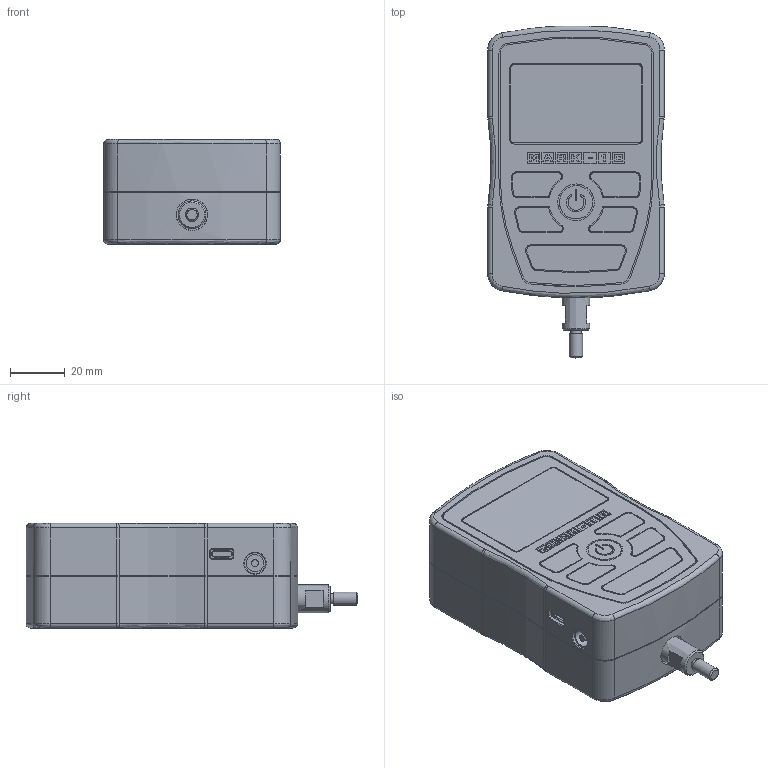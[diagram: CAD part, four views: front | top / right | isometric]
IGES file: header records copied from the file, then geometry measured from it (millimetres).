
Global section: file name: M3; native system: Autodesk RealDWG; preprocessor: Autodesk Translation Framework DWG producer (atf_dwg_producer); organization: unknown; date: 20240326.163333; units: inch
Bounding box: 64.27 x 120.8 x 38.3 mm (x, y, z)
Volume: 232505.5 mm3; surface area: 27023 mm2
Topology: 1 solids, 1 shells, 502 faces, 1297 edges, 863 vertices
Faces by surface type: bspline 502
